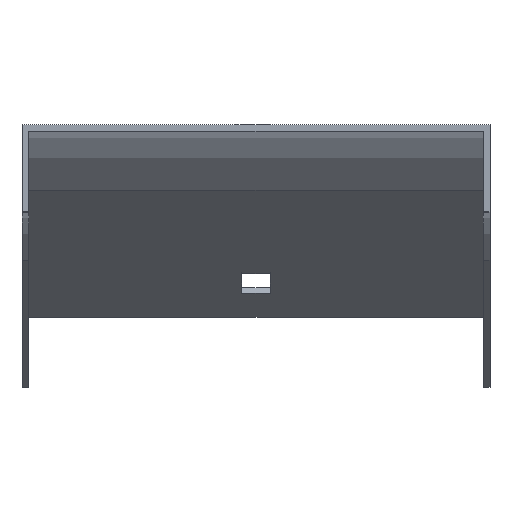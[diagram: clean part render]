
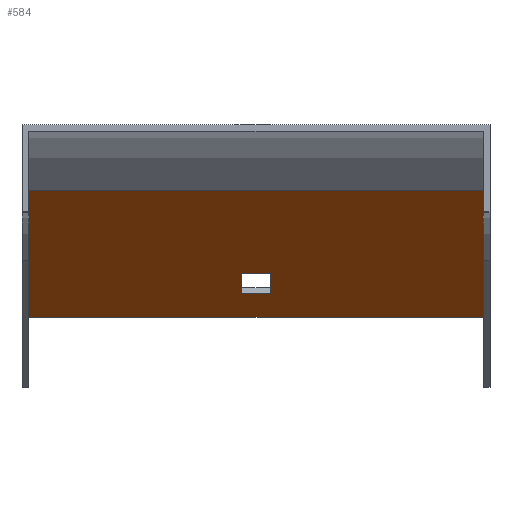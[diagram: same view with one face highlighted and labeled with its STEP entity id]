
A CAD part, top view. The second image highlights one B-rep face of the part: STEP entity #584.
In plain terms, the highlighted planar face has unit normal (0, -0.866, 0.5).
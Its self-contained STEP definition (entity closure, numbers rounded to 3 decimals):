
#31 = DIRECTION ( 'NONE',  ( -1., 0., 0. ) ) ;
#33 = VECTOR ( 'NONE', #113, 1000. ) ;
#35 = LINE ( 'NONE', #175, #548 ) ;
#43 = CARTESIAN_POINT ( 'NONE',  ( 53.5, -38.347, -148.517 ) ) ;
#44 = CARTESIAN_POINT ( 'NONE',  ( -52., -14.897, -107.9 ) ) ;
#58 = LINE ( 'NONE', #319, #651 ) ;
#60 = FACE_BOUND ( 'NONE', #444, .T. ) ;
#84 = CARTESIAN_POINT ( 'NONE',  ( -52., -43.847, -158.043 ) ) ;
#111 = EDGE_LOOP ( 'NONE', ( #381, #614, #169, #406 ) ) ;
#113 = DIRECTION ( 'NONE',  ( 1., 0., 0. ) ) ;
#121 = VECTOR ( 'NONE', #589, 1000. ) ;
#123 = CARTESIAN_POINT ( 'NONE',  ( 53.5, -14.897, -107.9 ) ) ;
#126 = DIRECTION ( 'NONE',  ( 0., 0.5, 0.866 ) ) ;
#142 = CARTESIAN_POINT ( 'NONE',  ( 3.25, -14.897, -107.9 ) ) ;
#164 = CARTESIAN_POINT ( 'NONE',  ( -52., -14.897, -107.9 ) ) ;
#169 = ORIENTED_EDGE ( 'NONE', *, *, #496, .T. ) ;
#175 = CARTESIAN_POINT ( 'NONE',  ( 52., -14.897, -107.9 ) ) ;
#176 = CARTESIAN_POINT ( 'NONE',  ( 53.5, -14.897, -107.9 ) ) ;
#185 = VECTOR ( 'NONE', #495, 1000. ) ;
#189 = LINE ( 'NONE', #591, #121 ) ;
#195 = VECTOR ( 'NONE', #196, 1000. ) ;
#196 = DIRECTION ( 'NONE',  ( 0., -0.5, -0.866 ) ) ;
#205 = LINE ( 'NONE', #44, #615 ) ;
#225 = AXIS2_PLACEMENT_3D ( 'NONE', #123, #523, #390 ) ;
#234 = ORIENTED_EDGE ( 'NONE', *, *, #410, .T. ) ;
#289 = VERTEX_POINT ( 'NONE', #435 ) ;
#319 = CARTESIAN_POINT ( 'NONE',  ( -3.25, -14.897, -107.9 ) ) ;
#322 = EDGE_CURVE ( 'NONE', #611, #289, #582, .T. ) ;
#330 = VERTEX_POINT ( 'NONE', #370 ) ;
#348 = EDGE_CURVE ( 'NONE', #431, #460, #507, .T. ) ;
#361 = DIRECTION ( 'NONE',  ( 0., 0.5, 0.866 ) ) ;
#370 = CARTESIAN_POINT ( 'NONE',  ( 52., -43.847, -158.043 ) ) ;
#381 = ORIENTED_EDGE ( 'NONE', *, *, #781, .F. ) ;
#390 = DIRECTION ( 'NONE',  ( 0., -0.5, -0.866 ) ) ;
#402 = ORIENTED_EDGE ( 'NONE', *, *, #514, .T. ) ;
#406 = ORIENTED_EDGE ( 'NONE', *, *, #348, .T. ) ;
#410 = EDGE_CURVE ( 'NONE', #740, #705, #441, .T. ) ;
#431 = VERTEX_POINT ( 'NONE', #445 ) ;
#435 = CARTESIAN_POINT ( 'NONE',  ( -3.25, -38.347, -148.517 ) ) ;
#441 = LINE ( 'NONE', #701, #33 ) ;
#444 = EDGE_LOOP ( 'NONE', ( #465, #402, #234, #575 ) ) ;
#445 = CARTESIAN_POINT ( 'NONE',  ( 52., -14.897, -107.9 ) ) ;
#460 = VERTEX_POINT ( 'NONE', #164 ) ;
#465 = ORIENTED_EDGE ( 'NONE', *, *, #322, .T. ) ;
#495 = DIRECTION ( 'NONE',  ( -1., 0., 0. ) ) ;
#496 = EDGE_CURVE ( 'NONE', #330, #431, #35, .T. ) ;
#507 = LINE ( 'NONE', #176, #520 ) ;
#514 = EDGE_CURVE ( 'NONE', #289, #740, #58, .T. ) ;
#520 = VECTOR ( 'NONE', #31, 1000. ) ;
#523 = DIRECTION ( 'NONE',  ( 0., -0.866, 0.5 ) ) ;
#548 = VECTOR ( 'NONE', #767, 1000. ) ;
#566 = EDGE_CURVE ( 'NONE', #330, #668, #189, .T. ) ;
#575 = ORIENTED_EDGE ( 'NONE', *, *, #737, .T. ) ;
#582 = LINE ( 'NONE', #43, #185 ) ;
#584 = ADVANCED_FACE ( 'NONE', ( #780, #60 ), #596, .T. ) ;
#589 = DIRECTION ( 'NONE',  ( -1., 0., 0. ) ) ;
#591 = CARTESIAN_POINT ( 'NONE',  ( 53.5, -43.847, -158.043 ) ) ;
#596 = PLANE ( 'NONE',  #225 ) ;
#598 = LINE ( 'NONE', #142, #195 ) ;
#611 = VERTEX_POINT ( 'NONE', #718 ) ;
#614 = ORIENTED_EDGE ( 'NONE', *, *, #566, .F. ) ;
#615 = VECTOR ( 'NONE', #361, 1000. ) ;
#651 = VECTOR ( 'NONE', #126, 1000. ) ;
#668 = VERTEX_POINT ( 'NONE', #84 ) ;
#701 = CARTESIAN_POINT ( 'NONE',  ( 53.5, -33.847, -140.722 ) ) ;
#705 = VERTEX_POINT ( 'NONE', #733 ) ;
#718 = CARTESIAN_POINT ( 'NONE',  ( 3.25, -38.347, -148.517 ) ) ;
#725 = CARTESIAN_POINT ( 'NONE',  ( -3.25, -33.847, -140.722 ) ) ;
#733 = CARTESIAN_POINT ( 'NONE',  ( 3.25, -33.847, -140.722 ) ) ;
#737 = EDGE_CURVE ( 'NONE', #705, #611, #598, .T. ) ;
#740 = VERTEX_POINT ( 'NONE', #725 ) ;
#767 = DIRECTION ( 'NONE',  ( 0., 0.5, 0.866 ) ) ;
#780 = FACE_OUTER_BOUND ( 'NONE', #111, .T. ) ;
#781 = EDGE_CURVE ( 'NONE', #668, #460, #205, .T. ) ;
